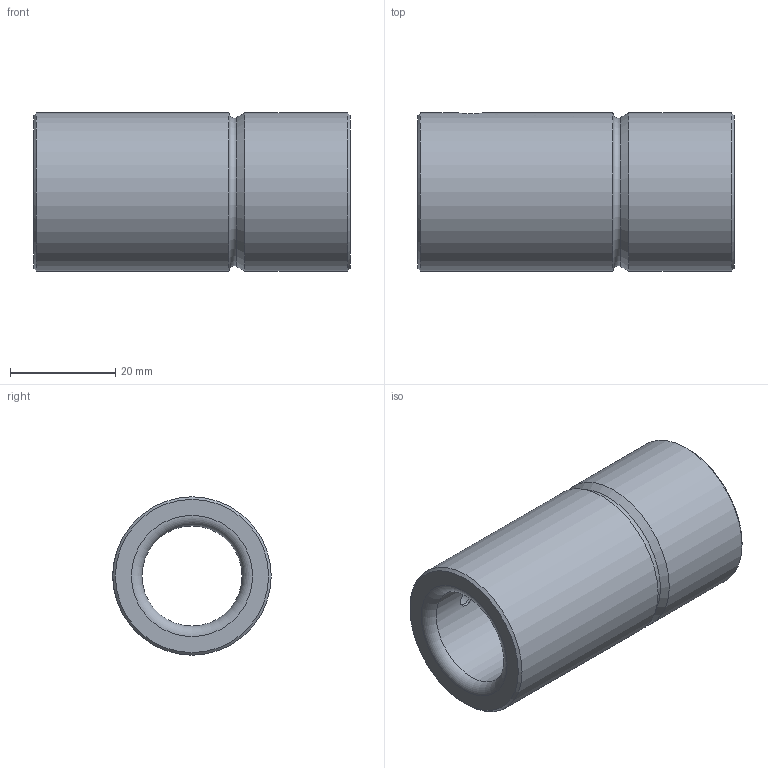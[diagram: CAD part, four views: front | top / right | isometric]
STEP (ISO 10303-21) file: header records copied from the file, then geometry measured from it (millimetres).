
FILE_DESCRIPTION( ( 'STEP AP214' ), '1' );
FILE_NAME( 'p:/temp/worker_27/temp/exporttempdir_1480_354_XsRgT/format_0/WZ 4068 19 x 60.stp', '2020-11-21T19:59:29', ( 'License CC BY-ND 4.0' ), ( 'CADENAS' ), ' ', 'PARTsolutions', ' ' );
FILE_SCHEMA( ( 'AUTOMOTIVE_DESIGN { 1 0 10303 214 1 1 1 1 }' ) );
Length unit declared in the file: millimetre
Products named in the file (1): _WZ 4068 19 x 60
Bounding box: 60 x 30.04 x 30.04 mm (x, y, z)
Volume: 23512.7 mm3; surface area: 10267.8 mm2
Topology: 1 solids, 1 shells, 16 faces, 29 edges, 17 vertices
Faces by surface type: cylinder 6, cone 4, plane 4, torus 2
Full cylindrical faces by diameter (mm): 3 x1, 5 x1, 19 x1, 21 x1, 30.04 x2
Entity records: 588 total; most frequent: CARTESIAN_POINT 159, DIRECTION 64, EDGE_LOOP 34, ORIENTED_EDGE 34, AXIS2_PLACEMENT_3D 32, FACE_OUTER_BOUND 24, EDGE_CURVE 17, VERTEX_POINT 17
